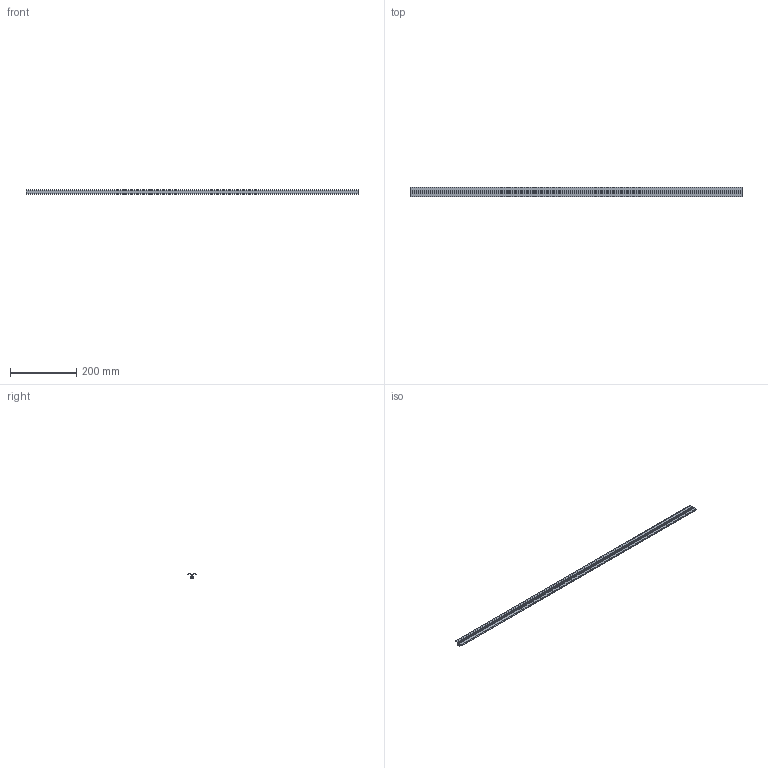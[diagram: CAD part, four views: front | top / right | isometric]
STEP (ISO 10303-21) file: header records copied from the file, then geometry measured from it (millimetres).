
FILE_DESCRIPTION(('no description'),'unknown implementation level');
FILE_NAME('3842993018_162420608.stp',' ',('Bosch Rexroth AG'),('CADClick - KiM GmbH - www.kimweb.de'),'unknown preprocess','ACIS','unknown authorization');
FILE_SCHEMA(('CONFIG_CONTROL_DESIGN'));
Length unit declared in the file: millimetre
Products named in the file (1): 1
Bounding box: 1000 x 30 x 12.5 mm (x, y, z)
Volume: 97176.2 mm3; surface area: 113789.5 mm2
Topology: 1 solids, 1 shells, 99 faces, 291 edges, 194 vertices
Faces by surface type: plane 85, cylinder 14
Entity records: 3297 total; most frequent: CARTESIAN_POINT 585, ORIENTED_EDGE 582, DIRECTION 519, EDGE_CURVE 291, LINE 263, VECTOR 263, VERTEX_POINT 194, AXIS2_PLACEMENT_3D 128
